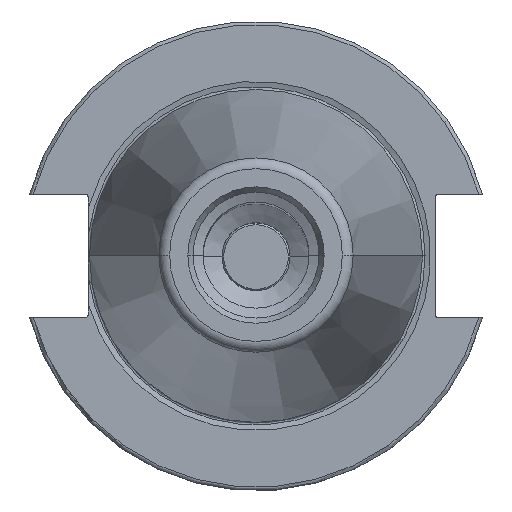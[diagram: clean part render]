
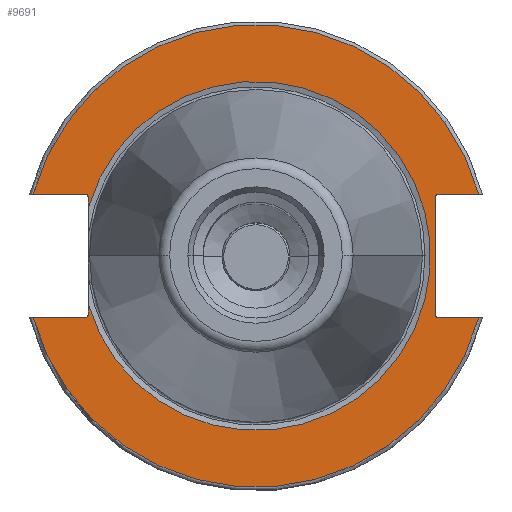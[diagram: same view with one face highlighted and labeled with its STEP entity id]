
A CAD part, top view. The second image highlights one B-rep face of the part: STEP entity #9691.
In plain terms, the highlighted planar face has unit normal (0, 0, 1).
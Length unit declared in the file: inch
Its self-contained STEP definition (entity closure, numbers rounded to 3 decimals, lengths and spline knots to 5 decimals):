
#17 = CIRCLE ( 'NONE', #3904, 1.9075 ) ;
#27 = CARTESIAN_POINT ( 'NONE',  ( 0., 0.51, -0.125 ) ) ;
#95 = DIRECTION ( 'NONE',  ( 0., -1., 0. ) ) ;
#100 = ORIENTED_EDGE ( 'NONE', *, *, #7797, .T. ) ;
#271 = AXIS2_PLACEMENT_3D ( 'NONE', #1139, #1085, #2768 ) ;
#307 = EDGE_CURVE ( 'NONE', #1697, #9242, #387, .T. ) ;
#387 = LINE ( 'NONE', #5269, #1945 ) ;
#388 = CARTESIAN_POINT ( 'NONE',  ( 1.5075, -0.48, -0.125 ) ) ;
#390 = DIRECTION ( 'NONE',  ( -1., 0., 0. ) ) ;
#392 = ORIENTED_EDGE ( 'NONE', *, *, #1093, .T. ) ;
#521 = DIRECTION ( 'NONE',  ( -1., 0., 0. ) ) ;
#988 = CARTESIAN_POINT ( 'NONE',  ( 1.4775, -1.9075, -0.125 ) ) ;
#1070 = DIRECTION ( 'NONE',  ( -1., 0., 0. ) ) ;
#1085 = DIRECTION ( 'NONE',  ( 0., 0., -1. ) ) ;
#1092 = EDGE_CURVE ( 'NONE', #5317, #2196, #1267, .T. ) ;
#1093 = EDGE_CURVE ( 'NONE', #1785, #3704, #9376, .T. ) ;
#1104 = LINE ( 'NONE', #988, #2172 ) ;
#1105 = ORIENTED_EDGE ( 'NONE', *, *, #5380, .T. ) ;
#1127 = DIRECTION ( 'NONE',  ( 0., 0., -1. ) ) ;
#1139 = CARTESIAN_POINT ( 'NONE',  ( 0., 0., -0.125 ) ) ;
#1238 = VERTEX_POINT ( 'NONE', #6309 ) ;
#1267 = CIRCLE ( 'NONE', #9379, 0.03 ) ;
#1328 = VECTOR ( 'NONE', #9608, 39.37008 ) ;
#1336 = DIRECTION ( 'NONE',  ( 0., 0., -1. ) ) ;
#1463 = AXIS2_PLACEMENT_3D ( 'NONE', #5108, #1127, #1070 ) ;
#1508 = CARTESIAN_POINT ( 'NONE',  ( -1.3825, -0.40209, -0.125 ) ) ;
#1528 = CARTESIAN_POINT ( 'NONE',  ( 0., -1.9075, -0.125 ) ) ;
#1697 = VERTEX_POINT ( 'NONE', #10469 ) ;
#1785 = VERTEX_POINT ( 'NONE', #1508 ) ;
#1880 = EDGE_CURVE ( 'NONE', #3778, #1785, #7210, .T. ) ;
#1945 = VECTOR ( 'NONE', #5116, 39.37008 ) ;
#2062 = VERTEX_POINT ( 'NONE', #8318 ) ;
#2069 = EDGE_CURVE ( 'NONE', #3704, #2955, #4171, .T. ) ;
#2164 = CARTESIAN_POINT ( 'NONE',  ( 1.83806, 0.51, -0.125 ) ) ;
#2172 = VECTOR ( 'NONE', #9045, 39.37008 ) ;
#2192 = CIRCLE ( 'NONE', #8971, 0.03 ) ;
#2196 = VERTEX_POINT ( 'NONE', #9879 ) ;
#2507 = EDGE_CURVE ( 'NONE', #2955, #8841, #6900, .T. ) ;
#2566 = DIRECTION ( 'NONE',  ( 1., 0., 0. ) ) ;
#2744 = AXIS2_PLACEMENT_3D ( 'NONE', #7202, #1336, #6259 ) ;
#2768 = DIRECTION ( 'NONE',  ( 1., 0., 0. ) ) ;
#2955 = VERTEX_POINT ( 'NONE', #2967 ) ;
#2967 = CARTESIAN_POINT ( 'NONE',  ( -1.4125, -0.51, -0.125 ) ) ;
#3021 = VERTEX_POINT ( 'NONE', #2164 ) ;
#3071 = DIRECTION ( 'NONE',  ( 1., 0., 0. ) ) ;
#3221 = CIRCLE ( 'NONE', #9464, 1.9075 ) ;
#3437 = DIRECTION ( 'NONE',  ( 1., 0., 0. ) ) ;
#3603 = CARTESIAN_POINT ( 'NONE',  ( -1.3825, -0.48, -0.125 ) ) ;
#3704 = VERTEX_POINT ( 'NONE', #3603 ) ;
#3720 = CARTESIAN_POINT ( 'NONE',  ( -1.4125, 0.51, -0.125 ) ) ;
#3778 = VERTEX_POINT ( 'NONE', #7240 ) ;
#3896 = LINE ( 'NONE', #27, #1328 ) ;
#3904 = AXIS2_PLACEMENT_3D ( 'NONE', #9827, #8988, #8169 ) ;
#3967 = CARTESIAN_POINT ( 'NONE',  ( 0., -0.51, -0.125 ) ) ;
#4049 = CARTESIAN_POINT ( 'NONE',  ( 1.83806, -0.51, -0.125 ) ) ;
#4126 = CARTESIAN_POINT ( 'NONE',  ( -1.3825, -1.9075, -0.125 ) ) ;
#4171 = CIRCLE ( 'NONE', #1463, 0.03 ) ;
#4196 = ORIENTED_EDGE ( 'NONE', *, *, #5375, .F. ) ;
#4239 = AXIS2_PLACEMENT_3D ( 'NONE', #1528, #8284, #3437 ) ;
#4559 = CARTESIAN_POINT ( 'NONE',  ( 1.5075, 0.48, -0.125 ) ) ;
#4699 = EDGE_CURVE ( 'NONE', #5018, #8841, #17, .T. ) ;
#5018 = VERTEX_POINT ( 'NONE', #4049 ) ;
#5074 = VERTEX_POINT ( 'NONE', #7738 ) ;
#5108 = CARTESIAN_POINT ( 'NONE',  ( -1.4125, -0.48, -0.125 ) ) ;
#5116 = DIRECTION ( 'NONE',  ( 1., 0., 0. ) ) ;
#5133 = PLANE ( 'NONE',  #4239 ) ;
#5173 = DIRECTION ( 'NONE',  ( 0., 0., -1. ) ) ;
#5269 = CARTESIAN_POINT ( 'NONE',  ( 0., 0.51, -0.125 ) ) ;
#5317 = VERTEX_POINT ( 'NONE', #6735 ) ;
#5375 = EDGE_CURVE ( 'NONE', #5074, #5018, #6310, .T. ) ;
#5380 = EDGE_CURVE ( 'NONE', #9242, #1238, #10179, .T. ) ;
#5625 = CARTESIAN_POINT ( 'NONE',  ( 0., 0., -0.125 ) ) ;
#6074 = CARTESIAN_POINT ( 'NONE',  ( 0., -0.51, -0.125 ) ) ;
#6259 = DIRECTION ( 'NONE',  ( -1., 0., 0. ) ) ;
#6309 = CARTESIAN_POINT ( 'NONE',  ( -1.3825, 0.48, -0.125 ) ) ;
#6310 = LINE ( 'NONE', #3967, #6805 ) ;
#6679 = ORIENTED_EDGE ( 'NONE', *, *, #8396, .F. ) ;
#6735 = CARTESIAN_POINT ( 'NONE',  ( 1.4775, 0.48, -0.125 ) ) ;
#6768 = ORIENTED_EDGE ( 'NONE', *, *, #307, .T. ) ;
#6805 = VECTOR ( 'NONE', #3071, 39.37008 ) ;
#6857 = ORIENTED_EDGE ( 'NONE', *, *, #1092, .T. ) ;
#6900 = LINE ( 'NONE', #6074, #9591 ) ;
#6903 = EDGE_LOOP ( 'NONE', ( #6679, #8198, #6768, #1105, #100, #8299, #392, #7536, #7024, #9866, #4196, #7629, #9575, #6857 ) ) ;
#7024 = ORIENTED_EDGE ( 'NONE', *, *, #2507, .T. ) ;
#7033 = CARTESIAN_POINT ( 'NONE',  ( -1.3825, -1.9075, -0.125 ) ) ;
#7202 = CARTESIAN_POINT ( 'NONE',  ( -1.4125, 0.48, -0.125 ) ) ;
#7210 = CIRCLE ( 'NONE', #271, 1.43979 ) ;
#7240 = CARTESIAN_POINT ( 'NONE',  ( -1.3825, 0.40209, -0.125 ) ) ;
#7536 = ORIENTED_EDGE ( 'NONE', *, *, #2069, .T. ) ;
#7629 = ORIENTED_EDGE ( 'NONE', *, *, #10055, .T. ) ;
#7736 = DIRECTION ( 'NONE',  ( 0., 0., -1. ) ) ;
#7738 = CARTESIAN_POINT ( 'NONE',  ( 1.5075, -0.51, -0.125 ) ) ;
#7797 = EDGE_CURVE ( 'NONE', #1238, #3778, #7933, .T. ) ;
#7933 = LINE ( 'NONE', #4126, #8433 ) ;
#8125 = EDGE_CURVE ( 'NONE', #5317, #2062, #1104, .T. ) ;
#8169 = DIRECTION ( 'NONE',  ( 1., 0., 0. ) ) ;
#8198 = ORIENTED_EDGE ( 'NONE', *, *, #9733, .F. ) ;
#8228 = CARTESIAN_POINT ( 'NONE',  ( -1.83806, -0.51, -0.125 ) ) ;
#8284 = DIRECTION ( 'NONE',  ( 0., 0., 1. ) ) ;
#8299 = ORIENTED_EDGE ( 'NONE', *, *, #1880, .T. ) ;
#8318 = CARTESIAN_POINT ( 'NONE',  ( 1.4775, -0.48, -0.125 ) ) ;
#8361 = VECTOR ( 'NONE', #9974, 39.37008 ) ;
#8396 = EDGE_CURVE ( 'NONE', #3021, #2196, #3896, .T. ) ;
#8433 = VECTOR ( 'NONE', #95, 39.37008 ) ;
#8841 = VERTEX_POINT ( 'NONE', #8228 ) ;
#8971 = AXIS2_PLACEMENT_3D ( 'NONE', #388, #7736, #10178 ) ;
#8988 = DIRECTION ( 'NONE',  ( 0., 0., -1. ) ) ;
#9045 = DIRECTION ( 'NONE',  ( 0., -1., 0. ) ) ;
#9095 = DIRECTION ( 'NONE',  ( 0., 0., -1. ) ) ;
#9242 = VERTEX_POINT ( 'NONE', #3720 ) ;
#9376 = LINE ( 'NONE', #7033, #8361 ) ;
#9379 = AXIS2_PLACEMENT_3D ( 'NONE', #4559, #5173, #521 ) ;
#9464 = AXIS2_PLACEMENT_3D ( 'NONE', #5625, #9095, #2566 ) ;
#9575 = ORIENTED_EDGE ( 'NONE', *, *, #8125, .F. ) ;
#9591 = VECTOR ( 'NONE', #390, 39.37008 ) ;
#9608 = DIRECTION ( 'NONE',  ( -1., 0., 0. ) ) ;
#9691 = ADVANCED_FACE ( 'NONE', ( #9928 ), #5133, .T. ) ;
#9733 = EDGE_CURVE ( 'NONE', #1697, #3021, #3221, .T. ) ;
#9827 = CARTESIAN_POINT ( 'NONE',  ( 0., 0., -0.125 ) ) ;
#9866 = ORIENTED_EDGE ( 'NONE', *, *, #4699, .F. ) ;
#9879 = CARTESIAN_POINT ( 'NONE',  ( 1.5075, 0.51, -0.125 ) ) ;
#9928 = FACE_OUTER_BOUND ( 'NONE', #6903, .T. ) ;
#9974 = DIRECTION ( 'NONE',  ( 0., -1., 0. ) ) ;
#10055 = EDGE_CURVE ( 'NONE', #5074, #2062, #2192, .T. ) ;
#10178 = DIRECTION ( 'NONE',  ( -1., 0., 0. ) ) ;
#10179 = CIRCLE ( 'NONE', #2744, 0.03 ) ;
#10469 = CARTESIAN_POINT ( 'NONE',  ( -1.83806, 0.51, -0.125 ) ) ;
